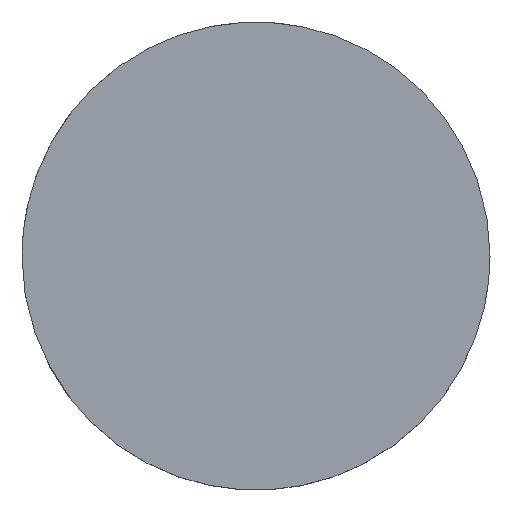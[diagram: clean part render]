
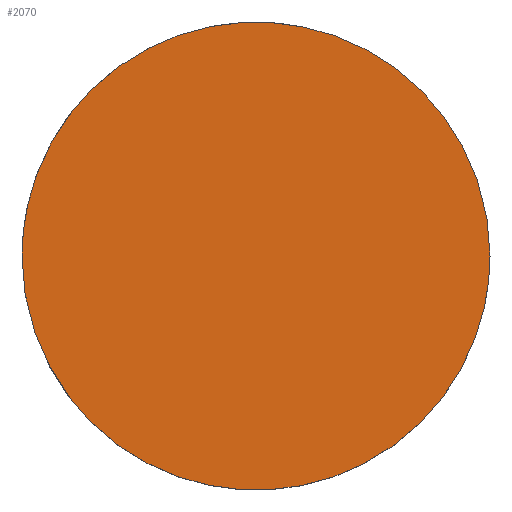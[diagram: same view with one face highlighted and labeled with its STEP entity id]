
A CAD part, top view. The second image highlights one B-rep face of the part: STEP entity #2070.
In plain terms, the highlighted planar face has unit normal (0, 0, 1).
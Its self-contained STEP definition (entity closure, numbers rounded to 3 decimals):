
#190 = CARTESIAN_POINT ('', (-25.4, 0., 0.));
#200 = VERTEX_POINT ('', #190);
#260 = CARTESIAN_POINT ('', (25.4, 0., 0.));
#270 = VERTEX_POINT ('', #260);
#280 = CARTESIAN_POINT ('', (25.4, 0., 0.));
#290 = CARTESIAN_POINT ('', (25.4, 25.4, 0.));
#300 = CARTESIAN_POINT ('', (0., 25.4, 0.));
#310 = CARTESIAN_POINT ('', (-25.4, 25.4, 0.));
#320 = CARTESIAN_POINT ('', (-25.4, 0., 0.));
#330 = (
   BOUNDED_CURVE ()
   B_SPLINE_CURVE (2, (#280, #290, #300, #310, #320), .UNSPECIFIED., .F., .U.)
   B_SPLINE_CURVE_WITH_KNOTS ((3, 2, 3), (0., 1.571, 3.142), .UNSPECIFIED.)
   CURVE ()
   GEOMETRIC_REPRESENTATION_ITEM ()
   RATIONAL_B_SPLINE_CURVE ((1., 0.707, 1., 0.707, 1.))
   REPRESENTATION_ITEM ('')
);
#340 = EDGE_CURVE ('', #270, #200, #330, .T.);
#580 = CARTESIAN_POINT ('', (-25.4, 0., 0.));
#590 = CARTESIAN_POINT ('', (-25.4, -25.4, 0.));
#600 = CARTESIAN_POINT ('', (0., -25.4, 0.));
#610 = CARTESIAN_POINT ('', (25.4, -25.4, 0.));
#620 = CARTESIAN_POINT ('', (25.4, 0., 0.));
#630 = (
   BOUNDED_CURVE ()
   B_SPLINE_CURVE (2, (#580, #590, #600, #610, #620), .UNSPECIFIED., .F., .U.)
   B_SPLINE_CURVE_WITH_KNOTS ((3, 2, 3), (3.142, 4.712, 6.283), .UNSPECIFIED.)
   CURVE ()
   GEOMETRIC_REPRESENTATION_ITEM ()
   RATIONAL_B_SPLINE_CURVE ((1., 0.707, 1., 0.707, 1.))
   REPRESENTATION_ITEM ('')
);
#640 = EDGE_CURVE ('', #200, #270, #630, .T.);
#1980 = ORIENTED_EDGE ('', *, *, #340, .T.);
#1990 = ORIENTED_EDGE ('', *, *, #640, .T.);
#2000 = EDGE_LOOP ('', (#1980, #1990));
#2010 = FACE_OUTER_BOUND ('', #2000, .T.);
#2020 = CARTESIAN_POINT ('', (0., 52.02, 0.));
#2030 = DIRECTION ('', (0., 0., 1.));
#2040 = DIRECTION ('', (-0.707, -0.707, 0.));
#2050 = AXIS2_PLACEMENT_3D ('', #2020, #2030, #2040);
#2060 = PLANE ('', #2050);
#2070 = ADVANCED_FACE ('', (#2010), #2060, .T.);
